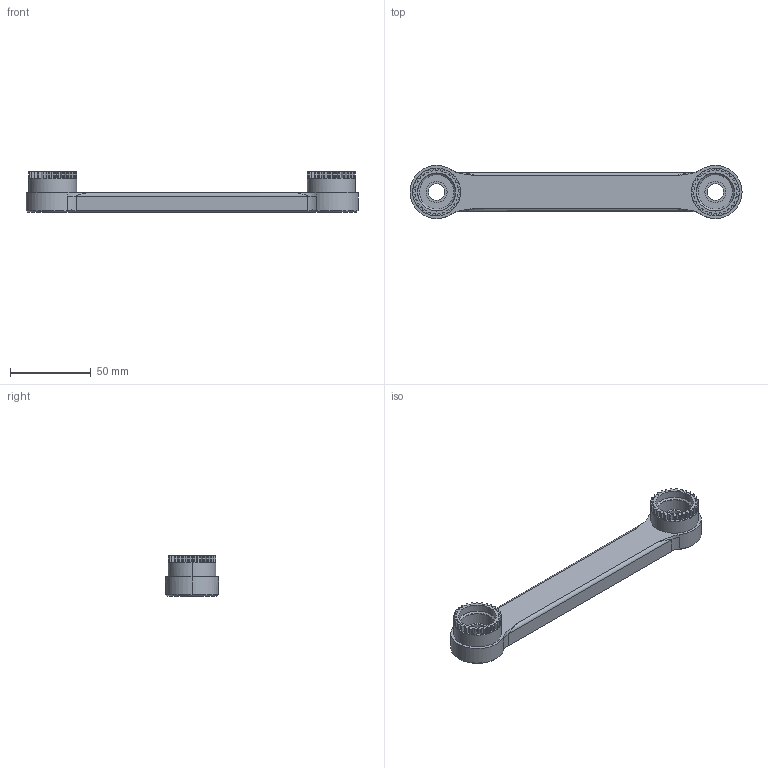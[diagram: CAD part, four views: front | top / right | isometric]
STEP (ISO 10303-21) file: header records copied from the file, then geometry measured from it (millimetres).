
FILE_DESCRIPTION (( 'STEP AP214' ), '1' );
FILE_NAME ('Braccio cilindri interni twist lock.STEP', '2025-10-25T21:54:16', ( '' ), ( '' ), 'SwSTEP 2.0', 'SolidWorks 2025', '' );
FILE_SCHEMA (( 'AUTOMOTIVE_DESIGN' ));
Length unit declared in the file: millimetre
Products named in the file (1): Braccio cilindri interni twist lock
Bounding box: 205.65 x 32.93 x 25 mm (x, y, z)
Volume: 59625.9 mm3; surface area: 23297.5 mm2
Topology: 1 solids, 1 shells, 292 faces, 832 edges, 552 vertices
Faces by surface type: plane 190, cylinder 88, cone 10, bspline 4
Entity records: 10049 total; most frequent: CARTESIAN_POINT 2173, DIRECTION 1684, ORIENTED_EDGE 1664, EDGE_CURVE 832, AXIS2_PLACEMENT_3D 587, VERTEX_POINT 552, VECTOR 510, LINE 510
